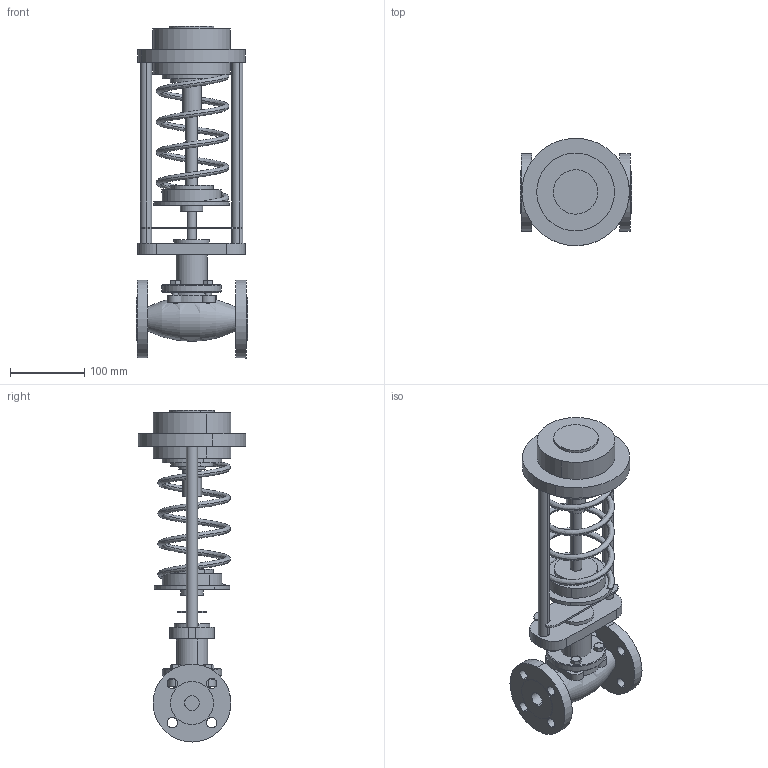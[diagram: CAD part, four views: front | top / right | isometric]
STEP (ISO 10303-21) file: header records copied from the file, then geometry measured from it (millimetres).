
FILE_DESCRIPTION (( 'STEP AP214' ), '1' );
FILE_NAME ('RDT-S, RDT-B DN-20.STEP', '2025-12-12T08:02:37', ( '' ), ( '' ), 'SwSTEP 2.0', 'SolidWorks 2023', '' );
FILE_SCHEMA (( 'AUTOMOTIVE_DESIGN' ));
Length unit declared in the file: millimetre
Products named in the file (4): ___ 1_1.stp; RDT-S, RDT-B DN-20.stp; RDT DN-20(______)_1.stp; RDT-S, RDT-B DN-20
Assembly tree (3 placements, depth 3):
  RDT-S, RDT-B DN-20
    RDT-S, RDT-B DN-20.stp
      ___ 1_1.stp
      RDT DN-20(______)_1.stp
Bounding box: 150.05 x 144.86 x 448 mm (x, y, z)
Volume: 1813572 mm3; surface area: 264048.7 mm2
Topology: 2 solids, 3 shells, 222 faces, 541 edges, 354 vertices
Faces by surface type: cylinder 104, plane 88, cone 26, bspline 2, torus 2
Entity records: 19407 total; most frequent: CARTESIAN_POINT 13836, DIRECTION 1208, ORIENTED_EDGE 1082, EDGE_CURVE 541, AXIS2_PLACEMENT_3D 485, VERTEX_POINT 354, EDGE_LOOP 289, CIRCLE 258
